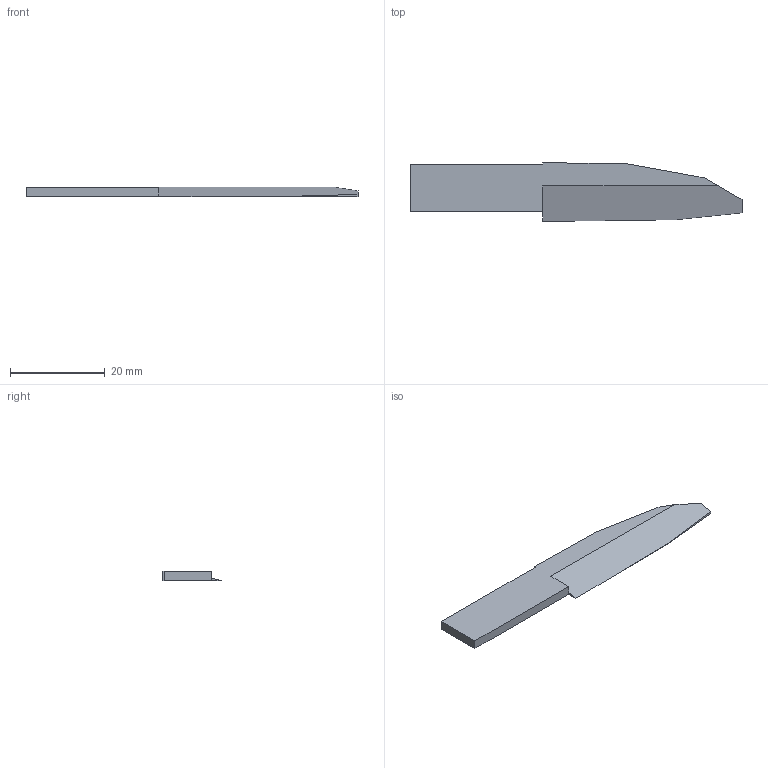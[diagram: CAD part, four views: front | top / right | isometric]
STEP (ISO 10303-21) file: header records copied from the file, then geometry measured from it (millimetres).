
FILE_DESCRIPTION(('Open CASCADE Model'),'2;1');
FILE_NAME('Open CASCADE Shape Model','2026-08-15T08:52:40',('Author'),( 'Open CASCADE'),'Open CASCADE STEP processor 7.9','Open CASCADE 7.9' ,'Unknown');
FILE_SCHEMA(('AUTOMOTIVE_DESIGN { 1 0 10303 214 1 1 1 1 }'));
Length unit declared in the file: millimetre
Products named in the file (1): Open CASCADE STEP translator 7.9 3
Bounding box: 70 x 12.4 x 2 mm (x, y, z)
Volume: 1137.9 mm3; surface area: 1652 mm2
Topology: 1 solids, 1 shells, 15 faces, 37 edges, 24 vertices
Faces by surface type: plane 15
Entity records: 915 total; most frequent: CARTESIAN_POINT 162, DIRECTION 132, LINE 100, VECTOR 100, ORIENTED_EDGE 74, PCURVE 74, DEFINITIONAL_REPRESENTATION 74, EDGE_CURVE 37
